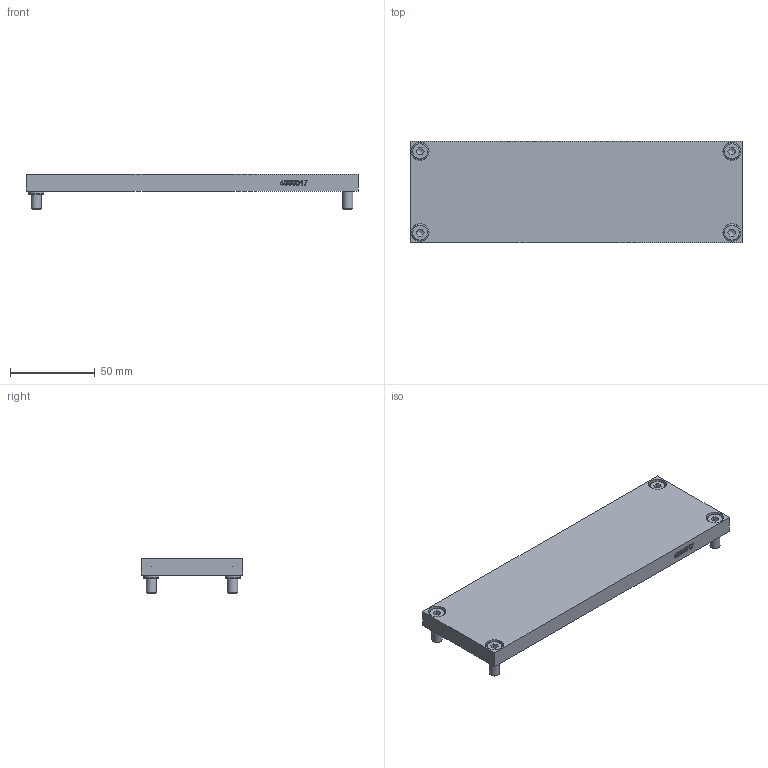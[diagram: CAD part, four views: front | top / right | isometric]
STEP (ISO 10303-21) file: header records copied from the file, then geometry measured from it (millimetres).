
FILE_DESCRIPTION((''),'2;1');
FILE_NAME('C:\Test\stp\4000016.stp','2008-03-18T15:19:27',('is'),(''),'Autodesk Inventor 10','Autodesk Inventor 10','');
FILE_SCHEMA(('AUTOMOTIVE_DESIGN { 1 0 10303 214 1 1 1 1 }'));
Length unit declared in the file: millimetre
Products named in the file (1): 4000017
Bounding box: 196 x 60 x 21 mm (x, y, z)
Volume: 118137.2 mm3; surface area: 31848.5 mm2
Topology: 1 solids, 3 shells, 179 faces, 411 edges, 268 vertices
Faces by surface type: plane 80, bspline 69, cone 12, cylinder 10, torus 8
Full cylindrical faces by diameter (mm): 6 x4, 9 x2, 10 x4
Entity records: 6076 total; most frequent: CARTESIAN_POINT 2652, ORIENTED_EDGE 710, DIRECTION 527, EDGE_CURVE 355, EDGE_LOOP 259, VERTEX_POINT 258, FACE_OUTER_BOUND 179, ADVANCED_FACE 179
